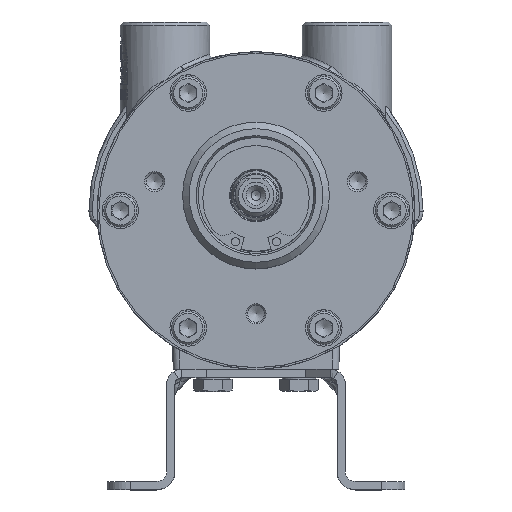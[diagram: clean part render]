
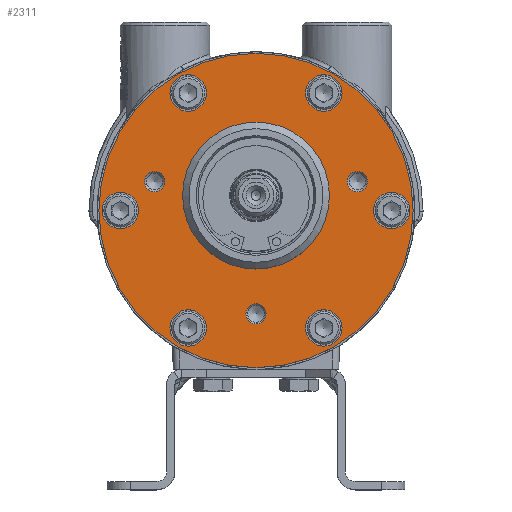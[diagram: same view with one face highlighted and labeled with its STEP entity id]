
A CAD part, top view. The second image highlights one B-rep face of the part: STEP entity #2311.
In plain terms, the highlighted planar face has unit normal (0, 0, 1).
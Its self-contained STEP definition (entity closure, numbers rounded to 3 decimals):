
#8 = DIRECTION ( 'NONE',  ( 1., 0., 0. ) ) ;
#238 = CIRCLE ( 'NONE', #26298, 3.053 ) ;
#1021 = DIRECTION ( 'NONE',  ( 1., 0., 0. ) ) ;
#1140 = FACE_BOUND ( 'NONE', #29154, .T. ) ;
#1374 = DIRECTION ( 'NONE',  ( 1., 0., 0. ) ) ;
#2311 = ADVANCED_FACE ( 'NONE', ( #32091, #3919, #11714, #6709, #3379, #15226, #26524, #34310, #18008, #1140, #8932 ), #23206, .T. ) ;
#2657 = VERTEX_POINT ( 'NONE', #5085 ) ;
#2699 = EDGE_CURVE ( 'NONE', #4537, #4537, #17884, .T. ) ;
#2804 = CARTESIAN_POINT ( 'NONE',  ( 0., -31.22, 29.55 ) ) ;
#3081 = AXIS2_PLACEMENT_3D ( 'NONE', #10753, #11315, #36659 ) ;
#3379 = FACE_BOUND ( 'NONE', #33561, .T. ) ;
#3452 = AXIS2_PLACEMENT_3D ( 'NONE', #26084, #20552, #34612 ) ;
#3919 = FACE_BOUND ( 'NONE', #18520, .T. ) ;
#4537 = VERTEX_POINT ( 'NONE', #12313 ) ;
#5085 = CARTESIAN_POINT ( 'NONE',  ( 26., -35.507, 29.55 ) ) ;
#5221 = CIRCLE ( 'NONE', #25910, 47.5 ) ;
#5732 = CARTESIAN_POINT ( 'NONE',  ( 20.5, 35.507, 29.55 ) ) ;
#6188 = EDGE_CURVE ( 'NONE', #18810, #18810, #19531, .T. ) ;
#6709 = FACE_BOUND ( 'NONE', #36409, .T. ) ;
#6759 = CARTESIAN_POINT ( 'NONE',  ( -15., -35.507, 29.55 ) ) ;
#6854 = AXIS2_PLACEMENT_3D ( 'NONE', #7515, #21414, #13044 ) ;
#7004 = CIRCLE ( 'NONE', #3452, 5.5 ) ;
#7515 = CARTESIAN_POINT ( 'NONE',  ( 0., 4.5, 29.55 ) ) ;
#7875 = DIRECTION ( 'NONE',  ( 0., 0., 1. ) ) ;
#8224 = CARTESIAN_POINT ( 'NONE',  ( 46.5, 0., 29.55 ) ) ;
#8738 = EDGE_LOOP ( 'NONE', ( #12850 ) ) ;
#8856 = ORIENTED_EDGE ( 'NONE', *, *, #15600, .T. ) ;
#8932 = FACE_OUTER_BOUND ( 'NONE', #19051, .T. ) ;
#9308 = CIRCLE ( 'NONE', #9910, 5.5 ) ;
#9527 = EDGE_CURVE ( 'NONE', #32335, #32335, #21050, .T. ) ;
#9860 = CARTESIAN_POINT ( 'NONE',  ( 26., 35.507, 29.55 ) ) ;
#9910 = AXIS2_PLACEMENT_3D ( 'NONE', #5732, #22785, #14252 ) ;
#10218 = VERTEX_POINT ( 'NONE', #26719 ) ;
#10382 = EDGE_CURVE ( 'NONE', #16194, #16194, #5221, .T. ) ;
#10695 = EDGE_CURVE ( 'NONE', #2657, #2657, #29497, .T. ) ;
#10753 = CARTESIAN_POINT ( 'NONE',  ( -30.67, 8.75, 29.55 ) ) ;
#11315 = DIRECTION ( 'NONE',  ( 0., 0., -1. ) ) ;
#11714 = FACE_BOUND ( 'NONE', #11853, .T. ) ;
#11740 = AXIS2_PLACEMENT_3D ( 'NONE', #34457, #23545, #23002 ) ;
#11757 = DIRECTION ( 'NONE',  ( 0., 0., -1. ) ) ;
#11853 = EDGE_LOOP ( 'NONE', ( #29787 ) ) ;
#12111 = CARTESIAN_POINT ( 'NONE',  ( -41., 0., 29.55 ) ) ;
#12313 = CARTESIAN_POINT ( 'NONE',  ( -27.617, 8.75, 29.55 ) ) ;
#12319 = EDGE_LOOP ( 'NONE', ( #26258 ) ) ;
#12440 = CARTESIAN_POINT ( 'NONE',  ( 0., 0., 29.55 ) ) ;
#12476 = DIRECTION ( 'NONE',  ( 1., 0., 0. ) ) ;
#12850 = ORIENTED_EDGE ( 'NONE', *, *, #10695, .T. ) ;
#13044 = DIRECTION ( 'NONE',  ( 1., 0., 0. ) ) ;
#13625 = CARTESIAN_POINT ( 'NONE',  ( 0., 0., 29.55 ) ) ;
#13972 = CIRCLE ( 'NONE', #18721, 5.5 ) ;
#14252 = DIRECTION ( 'NONE',  ( 1., 0., 0. ) ) ;
#14683 = VERTEX_POINT ( 'NONE', #20434 ) ;
#14742 = CARTESIAN_POINT ( 'NONE',  ( 41., 0., 29.55 ) ) ;
#15113 = CIRCLE ( 'NONE', #6854, 22.2 ) ;
#15226 = FACE_BOUND ( 'NONE', #21603, .T. ) ;
#15405 = CARTESIAN_POINT ( 'NONE',  ( 30.67, 8.75, 29.55 ) ) ;
#15600 = EDGE_CURVE ( 'NONE', #24911, #24911, #35464, .T. ) ;
#15972 = AXIS2_PLACEMENT_3D ( 'NONE', #2804, #27975, #8 ) ;
#16194 = VERTEX_POINT ( 'NONE', #25085 ) ;
#16642 = AXIS2_PLACEMENT_3D ( 'NONE', #12440, #26332, #23760 ) ;
#17354 = ORIENTED_EDGE ( 'NONE', *, *, #34867, .T. ) ;
#17723 = CARTESIAN_POINT ( 'NONE',  ( -20.5, -35.507, 29.55 ) ) ;
#17884 = CIRCLE ( 'NONE', #3081, 3.053 ) ;
#18008 = FACE_BOUND ( 'NONE', #34908, .T. ) ;
#18078 = DIRECTION ( 'NONE',  ( 0., 0., -1. ) ) ;
#18317 = DIRECTION ( 'NONE',  ( -1., 0., 0. ) ) ;
#18520 = EDGE_LOOP ( 'NONE', ( #8856 ) ) ;
#18721 = AXIS2_PLACEMENT_3D ( 'NONE', #14742, #23646, #1021 ) ;
#18810 = VERTEX_POINT ( 'NONE', #29545 ) ;
#19051 = EDGE_LOOP ( 'NONE', ( #32987 ) ) ;
#19531 = CIRCLE ( 'NONE', #34324, 5.5 ) ;
#19911 = EDGE_CURVE ( 'NONE', #36167, #36167, #13972, .T. ) ;
#20434 = CARTESIAN_POINT ( 'NONE',  ( 33.723, 8.75, 29.55 ) ) ;
#20552 = DIRECTION ( 'NONE',  ( 0., 0., -1. ) ) ;
#21050 = CIRCLE ( 'NONE', #22245, 5.5 ) ;
#21414 = DIRECTION ( 'NONE',  ( 0., 0., -1. ) ) ;
#21530 = DIRECTION ( 'NONE',  ( 0., 0., -1. ) ) ;
#21603 = EDGE_LOOP ( 'NONE', ( #21692 ) ) ;
#21692 = ORIENTED_EDGE ( 'NONE', *, *, #31191, .T. ) ;
#21966 = ORIENTED_EDGE ( 'NONE', *, *, #2699, .T. ) ;
#22245 = AXIS2_PLACEMENT_3D ( 'NONE', #17723, #18078, #1374 ) ;
#22785 = DIRECTION ( 'NONE',  ( 0., 0., -1. ) ) ;
#23002 = DIRECTION ( 'NONE',  ( 1., 0., 0. ) ) ;
#23206 = PLANE ( 'NONE',  #16642 ) ;
#23545 = DIRECTION ( 'NONE',  ( 0., 0., -1. ) ) ;
#23646 = DIRECTION ( 'NONE',  ( 0., 0., -1. ) ) ;
#23760 = DIRECTION ( 'NONE',  ( 1., 0., 0. ) ) ;
#24472 = DIRECTION ( 'NONE',  ( 1., 0., 0. ) ) ;
#24911 = VERTEX_POINT ( 'NONE', #25265 ) ;
#24988 = EDGE_CURVE ( 'NONE', #28575, #28575, #15113, .T. ) ;
#25085 = CARTESIAN_POINT ( 'NONE',  ( -47.5, 0., 29.55 ) ) ;
#25265 = CARTESIAN_POINT ( 'NONE',  ( 3.053, -31.22, 29.55 ) ) ;
#25622 = CARTESIAN_POINT ( 'NONE',  ( 22.2, 4.5, 29.55 ) ) ;
#25910 = AXIS2_PLACEMENT_3D ( 'NONE', #13625, #7875, #18317 ) ;
#26084 = CARTESIAN_POINT ( 'NONE',  ( -20.5, 35.507, 29.55 ) ) ;
#26258 = ORIENTED_EDGE ( 'NONE', *, *, #19911, .T. ) ;
#26298 = AXIS2_PLACEMENT_3D ( 'NONE', #15405, #21530, #24472 ) ;
#26332 = DIRECTION ( 'NONE',  ( 0., 0., 1. ) ) ;
#26524 = FACE_BOUND ( 'NONE', #12319, .T. ) ;
#26719 = CARTESIAN_POINT ( 'NONE',  ( -15., 35.507, 29.55 ) ) ;
#27975 = DIRECTION ( 'NONE',  ( 0., 0., -1. ) ) ;
#28174 = ORIENTED_EDGE ( 'NONE', *, *, #6188, .T. ) ;
#28575 = VERTEX_POINT ( 'NONE', #25622 ) ;
#28757 = EDGE_CURVE ( 'NONE', #14683, #14683, #238, .T. ) ;
#29154 = EDGE_LOOP ( 'NONE', ( #28174 ) ) ;
#29497 = CIRCLE ( 'NONE', #11740, 5.5 ) ;
#29545 = CARTESIAN_POINT ( 'NONE',  ( -35.5, 0., 29.55 ) ) ;
#29787 = ORIENTED_EDGE ( 'NONE', *, *, #28757, .T. ) ;
#31191 = EDGE_CURVE ( 'NONE', #32100, #32100, #9308, .T. ) ;
#31745 = EDGE_LOOP ( 'NONE', ( #21966 ) ) ;
#32091 = FACE_BOUND ( 'NONE', #31745, .T. ) ;
#32100 = VERTEX_POINT ( 'NONE', #9860 ) ;
#32335 = VERTEX_POINT ( 'NONE', #6759 ) ;
#32486 = ORIENTED_EDGE ( 'NONE', *, *, #9527, .T. ) ;
#32739 = ORIENTED_EDGE ( 'NONE', *, *, #24988, .T. ) ;
#32987 = ORIENTED_EDGE ( 'NONE', *, *, #10382, .T. ) ;
#33561 = EDGE_LOOP ( 'NONE', ( #17354 ) ) ;
#34310 = FACE_BOUND ( 'NONE', #8738, .T. ) ;
#34324 = AXIS2_PLACEMENT_3D ( 'NONE', #12111, #11757, #12476 ) ;
#34457 = CARTESIAN_POINT ( 'NONE',  ( 20.5, -35.507, 29.55 ) ) ;
#34612 = DIRECTION ( 'NONE',  ( 1., 0., 0. ) ) ;
#34867 = EDGE_CURVE ( 'NONE', #10218, #10218, #7004, .T. ) ;
#34908 = EDGE_LOOP ( 'NONE', ( #32486 ) ) ;
#35464 = CIRCLE ( 'NONE', #15972, 3.053 ) ;
#36167 = VERTEX_POINT ( 'NONE', #8224 ) ;
#36409 = EDGE_LOOP ( 'NONE', ( #32739 ) ) ;
#36659 = DIRECTION ( 'NONE',  ( 1., 0., 0. ) ) ;
